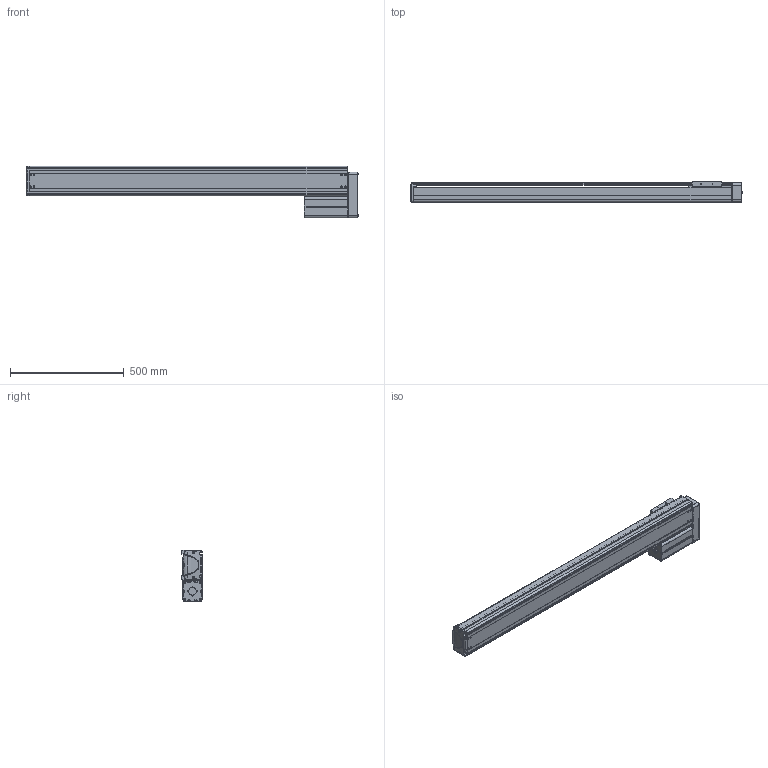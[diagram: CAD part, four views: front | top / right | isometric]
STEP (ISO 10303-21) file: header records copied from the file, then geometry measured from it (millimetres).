
FILE_DESCRIPTION((''),'2;1');
FILE_NAME('BE30E-UL-M_B-C0_IGS_PRT','2017-06-17T',(' '),(''),'PRO/ENGINEER BY PARAMETRIC TECHNOLOGY CORPORATION, 2015030','PRO/ENGINEER BY PARAMETRIC TECHNOLOGY CORPORATION, 2015030','');
FILE_SCHEMA(('CONFIG_CONTROL_DESIGN'));
Length unit declared in the file: millimetre
Products named in the file (1): BE30E-UL-M_B-C0_IGS_PRT
Bounding box: 1461.9 x 89.8 x 227 mm (x, y, z)
Volume: 4731887.3 mm3; surface area: 1995822.6 mm2
Topology: 2 solids, 135 shells, 2087 faces, 5635 edges, 3665 vertices
Faces by surface type: plane 1002, cylinder 895, cone 101, torus 37, bspline 28, sphere 24
Entity records: 67741 total; most frequent: CARTESIAN_POINT 14410, DIRECTION 11267, ORIENTED_EDGE 10688, EDGE_CURVE 5597, AXIS2_PLACEMENT_3D 3992, VERTEX_POINT 3665, VECTOR 3283, LINE 3283
